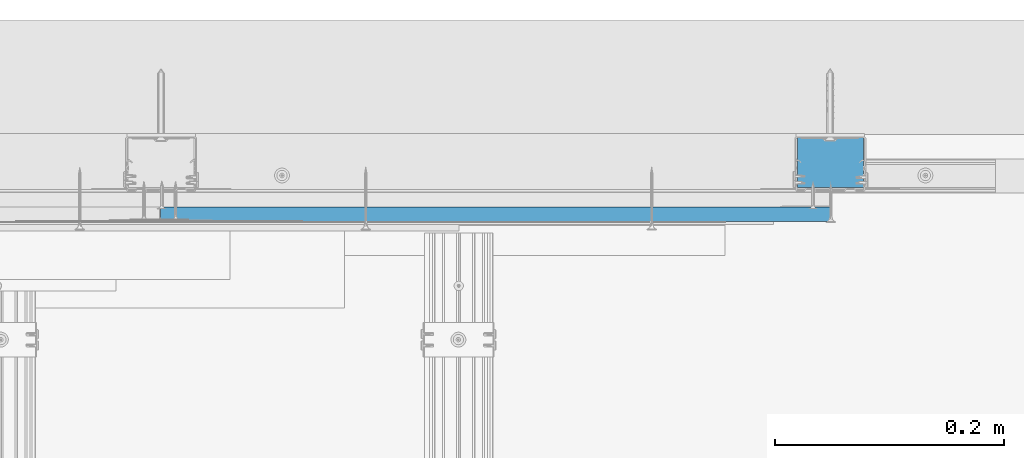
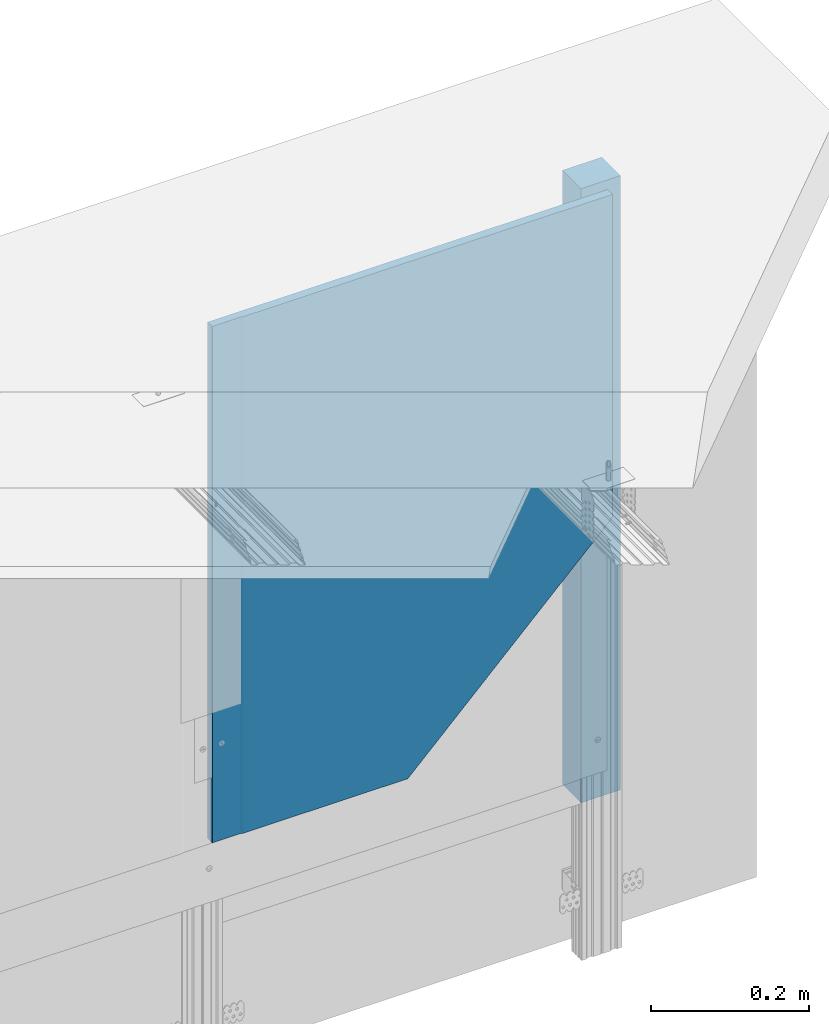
# One storey, part 33 of 62: 2 walls.
"""IFC2X3 building model written with IfcOpenShell, lengths in millimetres."""

from ifc_helpers import new_model, entity, si_unit, converted_unit, direction, frame, origin, origin_with_axes, place, context, project, spatial, faceted_brep, element, save


model = new_model("IFC2X3")

# Units and contexts
model_context = context("Model", 3, precision=1e-05, world=origin(), true_north=direction((0.0, 1.0, 0.0)))
ifc_project = project(units=[si_unit("LENGTHUNIT", "METRE", prefix="MILLI"), si_unit("AREAUNIT", "SQUARE_METRE"), si_unit("VOLUMEUNIT", "CUBIC_METRE"), converted_unit("PLANEANGLEUNIT", "DEGREE", entity("IfcPlaneAngleMeasure", 0.01745), si_unit("PLANEANGLEUNIT", "RADIAN"), dimensions=[0, 0, 0, 0, 0, 0, 0]), si_unit("SOLIDANGLEUNIT", "STERADIAN"), si_unit("MASSUNIT", "GRAM"), si_unit("TIMEUNIT", "SECOND"), si_unit("THERMODYNAMICTEMPERATUREUNIT", "DEGREE_CELSIUS"), si_unit("LUMINOUSINTENSITYUNIT", "LUMEN")], contexts=[model_context])

# Site, building, storey
site_placement = place(None, origin_with_axes())
site = spatial("IfcSite", under=ifc_project, at=site_placement, Name="Default Site", CompositionType="ELEMENT")
building_placement = place(site_placement, origin_with_axes())
building = spatial("IfcBuilding", under=site, at=building_placement, Name="Default Building", CompositionType="ELEMENT")
storey_placement = place(building_placement, origin_with_axes())
storey = spatial("IfcBuildingStorey", under=building, at=storey_placement, Name="Default Building Storey", CompositionType="ELEMENT", Elevation=0.0)

# Walls
wall_1_placement = place(storey_placement, frame((2902.506370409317, 1958.680077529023, 333.808487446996), z_axis=(0.0, 0.0, -1.0), x_axis=(1.0, 0.0, 0.0)))
element("IfcWall", 1, at=wall_1_placement, inside=storey, Name="Płyta gipsowo-kartonowa RIGIPS PRO (4PRO™)", context=model_context, shape_type="Brep", body=[
    faceted_brep([(585.923278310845, 12.49999999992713, -550.0000000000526), (285.9232783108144, 12.49999999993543, -250.0000000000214), (285.9232783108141, -4.475850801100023e-11, -250.0000000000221), (585.923278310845, -5.306048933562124e-11, -550.0000000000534), (585.9232783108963, 12.5000000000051, -1050.001581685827), (44.99999999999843, 12.50000000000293, -1050.001581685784), (44.99999999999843, 12.50000000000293, -249.9999999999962), (585.9232783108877, 3.609557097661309e-12, -1050.001581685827), (40.99999999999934, 11.50000000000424, -249.9999999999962), (40.99999999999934, 11.50000000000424, -1050.001581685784), (0.9999999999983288, 11.5000000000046, -249.9999999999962), (0.9999999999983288, 11.5000000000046, -1050.001581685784), (0.7411809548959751, 11.46592582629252, -249.9999999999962), (0.7411809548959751, 11.46592582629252, -1050.001581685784), (0.4999999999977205, 11.3660254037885, -249.9999999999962), (0.4999999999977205, 11.3660254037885, -1050.001581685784), (0.29289321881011, 11.20710678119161, -249.9999999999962), (0.29289321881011, 11.20710678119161, -1050.001581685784), (0.1339745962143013, 11.00000000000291, -249.9999999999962), (0.1339745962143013, 11.00000000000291, -1050.001581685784), (0.03407417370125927, 10.7588190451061, -249.9999999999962), (0.03407417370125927, 10.7588190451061, -1050.001581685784), (-3.97051280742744e-12, 10.50000000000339, -249.9999999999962), (-3.97051280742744e-12, 10.50000000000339, -1050.001581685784), (0.0, 0.0, -249.9999999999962), (0.0, 0.0, -1050.001581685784)], [[[0, 1, 2, 3]], [[0, 4, 5, 6, 1]], [[3, 7, 4, 0]], [[8, 6, 5, 9]], [[10, 8, 9, 11]], [[12, 10, 11, 13]], [[14, 12, 13, 15]], [[16, 14, 15, 17]], [[18, 16, 17, 19]], [[20, 18, 19, 21]], [[22, 20, 21, 23]], [[24, 22, 23, 25]], [[25, 7, 3, 2, 24]], [[5, 4, 7, 25, 23, 21, 19, 17, 15, 13, 11, 9]], [[2, 1, 6, 8, 10, 12, 14, 16, 18, 20, 22, 24]]]),
])
wall_2_placement = place(storey_placement, frame((3291.176545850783, 5350.424146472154, 1395.352084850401), z_axis=(0.0, 0.0, -1.0), x_axis=(-1.0, 4.718447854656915e-16, 0.0)))
element("IfcWall", 2, at=wall_2_placement, inside=storey, Name="Wypełnienie wełny mineralnej szklanej lub skalnej ISOVER", context=model_context, shape_type="Brep", body=[
    faceted_brep([(-168.1247796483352, -3327.645535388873, 961.5435974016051), (-225.8247796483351, -3327.645535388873, 961.5435974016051), (-225.8247796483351, -3327.645535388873, 10.28402578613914), (-168.1247796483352, -3327.645535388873, 10.28402578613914), (-168.124779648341, -3370.612995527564, 10.28402578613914), (-168.124779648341, -3370.612995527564, 961.5435974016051), (-225.8247796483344, -3374.8332237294, 961.5435974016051), (-168.1247796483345, -3374.833223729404, 961.5435974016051), (-168.1247796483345, -3374.833223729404, 10.28402578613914), (-225.8247796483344, -3374.8332237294, 10.28402578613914)], [[[0, 1, 2, 3]], [[3, 4, 5, 0]], [[6, 7, 8, 9]], [[1, 6, 9, 2]], [[8, 4, 3, 2, 9]], [[1, 0, 5, 7, 6]], [[5, 4, 8, 7]]]),
])

save(model, "model.ifc")
